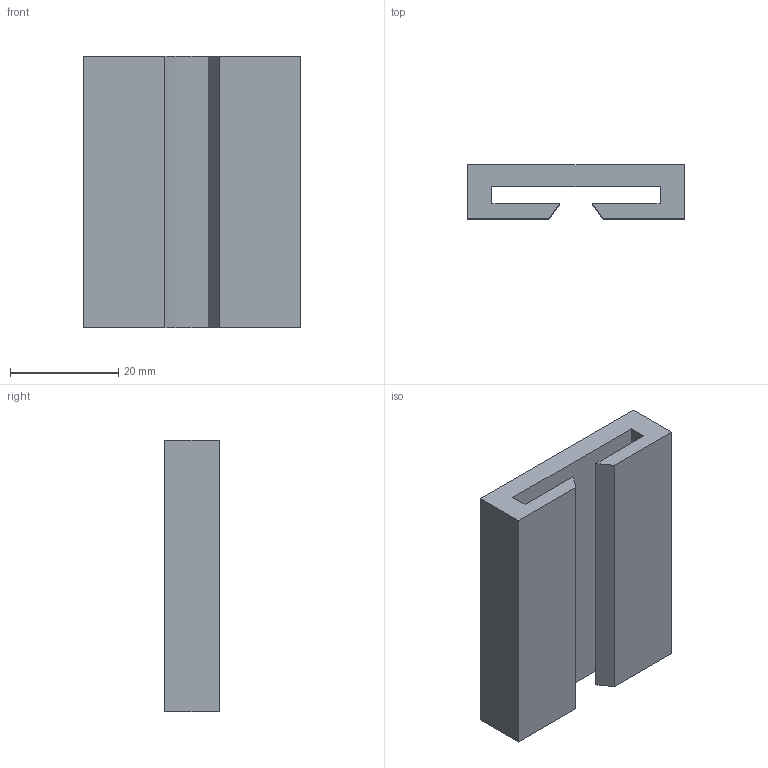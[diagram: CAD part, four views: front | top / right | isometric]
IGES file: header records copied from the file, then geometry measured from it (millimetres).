
Start section: SolidWorks IGES file using analytic representation for surfaces
Global section: file name: C:\Documents and Settings\URETIM3\Desktop\yeni katalog tolgay düzenli\C kataloðu\40 mm C profil için alüminyum profil\206 AGC 040.IGS; native system: SolidWorks 2006 by SolidWorks Corporation; preprocessor: SolidWorks 2006 by SolidWorks Corporation; author: URETIM3; date: 060912.100411; units: millimetre
Bounding box: 40 x 10 x 50 mm (x, y, z)
Surface area: 8520.9 mm2 (no closed solid volume)
Topology: 0 solids, 0 shells, 14 faces, 72 edges, 72 vertices
Faces by surface type: bspline 14
